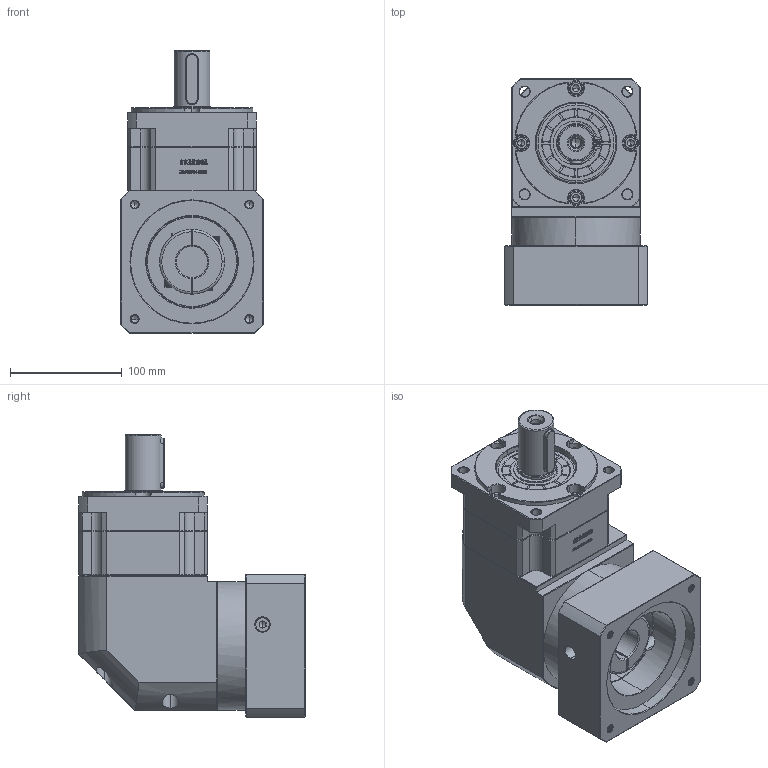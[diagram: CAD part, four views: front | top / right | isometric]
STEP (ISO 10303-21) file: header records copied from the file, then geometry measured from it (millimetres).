
FILE_DESCRIPTION (( 'STEP AP214' ), '1' );
FILE_NAME ('ZBR115A-D32-L1-28-110-145-M8.step', '2023-03-03T05:01:12', ( '' ), ( 'Microsoft' ), 'SwSTEP 2.0', 'SolidWorks 2016', '' );
FILE_SCHEMA (( 'AUTOMOTIVE_DESIGN' ));
Length unit declared in the file: millimetre
Products named in the file (1): ZBR115A-D32-L1-28-110-145-M8
Bounding box: 128 x 202.4 x 253 mm (x, y, z)
Volume: 3163168.7 mm3; surface area: 262454.5 mm2
Topology: 6 solids, 6 shells, 2984 faces, 7915 edges, 5074 vertices
Faces by surface type: plane 1560, bspline 607, cylinder 439, cone 370, torus 8
Entity records: 162100 total; most frequent: CARTESIAN_POINT 60108, ORIENTED_EDGE 15770, DIRECTION 11931, EDGE_CURVE 7885, VECTOR 5311, LINE 5311, VERTEX_POINT 5074, AXIS2_PLACEMENT_3D 3310
